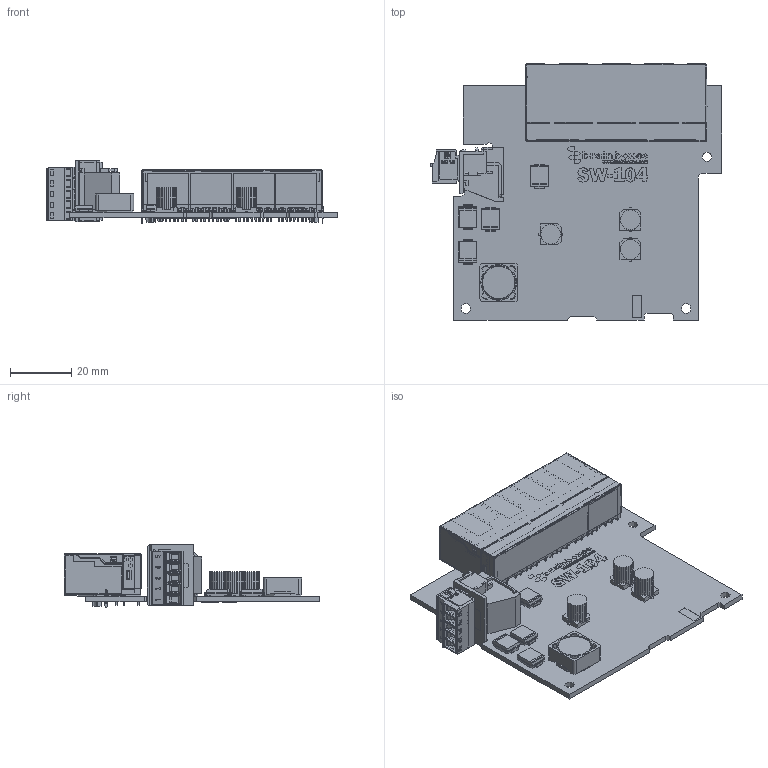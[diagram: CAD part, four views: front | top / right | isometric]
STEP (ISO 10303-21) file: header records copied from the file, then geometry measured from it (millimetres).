
FILE_DESCRIPTION(('FreeCAD Model'),'2;1');
FILE_NAME('Open CASCADE Shape Model','2023-03-14T15:45:29',('Author'),( ''),'Open CASCADE STEP processor 7.6','FreeCAD','Unknown');
FILE_SCHEMA(('AUTOMOTIVE_DESIGN { 1 0 10303 214 1 1 1 1 }'));
Products named in the file (1): For SW-104 Colour
Bounding box: 95.38 x 83.76 x 20.4 mm (x, y, z)
Volume: 31098.5 mm3; surface area: 47348.9 mm2
Topology: 119 solids, 135 shells, 7518 faces, 21076 edges, 13803 vertices
Faces by surface type: plane 5889, cylinder 888, bspline 566, extrusion 74, torus 57, cone 24, sphere 20
Entity records: 265267 total; most frequent: CARTESIAN_POINT 54619, ORIENTED_EDGE 42118, DIRECTION 36553, EDGE_CURVE 21059, VECTOR 17669, LINE 17595, VERTEX_POINT 13803, AXIS2_PLACEMENT_3D 9442
